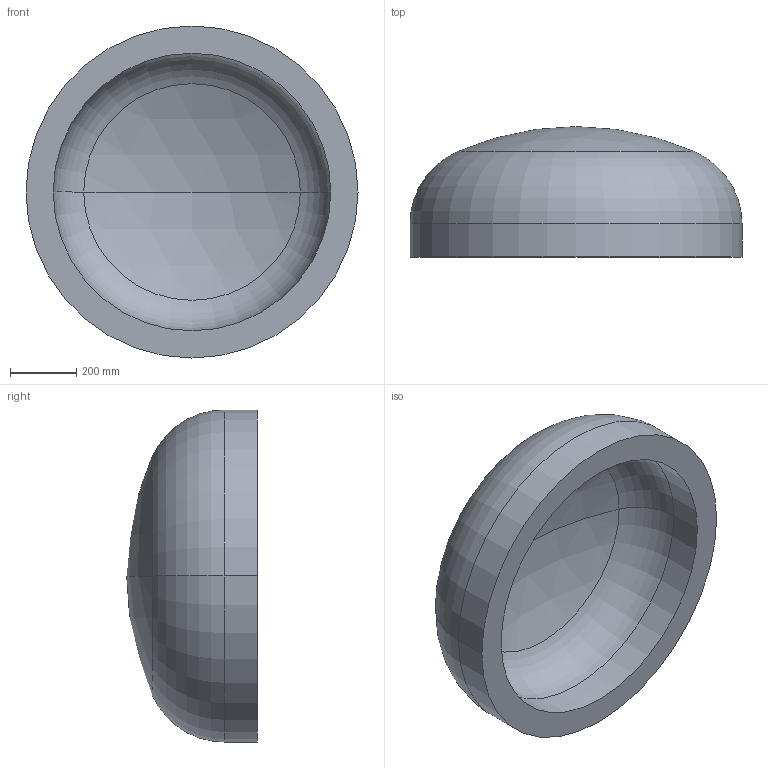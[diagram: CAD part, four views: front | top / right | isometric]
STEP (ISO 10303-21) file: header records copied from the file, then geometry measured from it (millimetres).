
FILE_DESCRIPTION (( 'STEP AP203' ), '1' );
FILE_NAME ('DIN 28013 Korbbogenform_-_Boden DIN 28013 - 1000 x 100 - I - s=82.step', '2016-07-01T08:54:41', ( '' ), ( '' ), 'SwSTEP 2.0', 'SolidWorks 2013', '' );
FILE_SCHEMA (( 'CONFIG_CONTROL_DESIGN' ));
Length unit declared in the file: millimetre
Products named in the file (1): DIN 28013 Korbbogenform_-_Boden DIN 28013 - 1000 x 100 - I - s=82
Bounding box: 1000 x 393.06 x 1000 mm (x, y, z)
Volume: 104243285.2 mm3; surface area: 2793087.9 mm2
Topology: 1 solids, 1 shells, 13 faces, 24 edges, 14 vertices
Faces by surface type: torus 4, cylinder 4, sphere 4, plane 1
Entity records: 407 total; most frequent: DIRECTION 72, CARTESIAN_POINT 52, ORIENTED_EDGE 48, AXIS2_PLACEMENT_3D 34, EDGE_CURVE 24, CIRCLE 20, EDGE_LOOP 14, VERTEX_POINT 14
